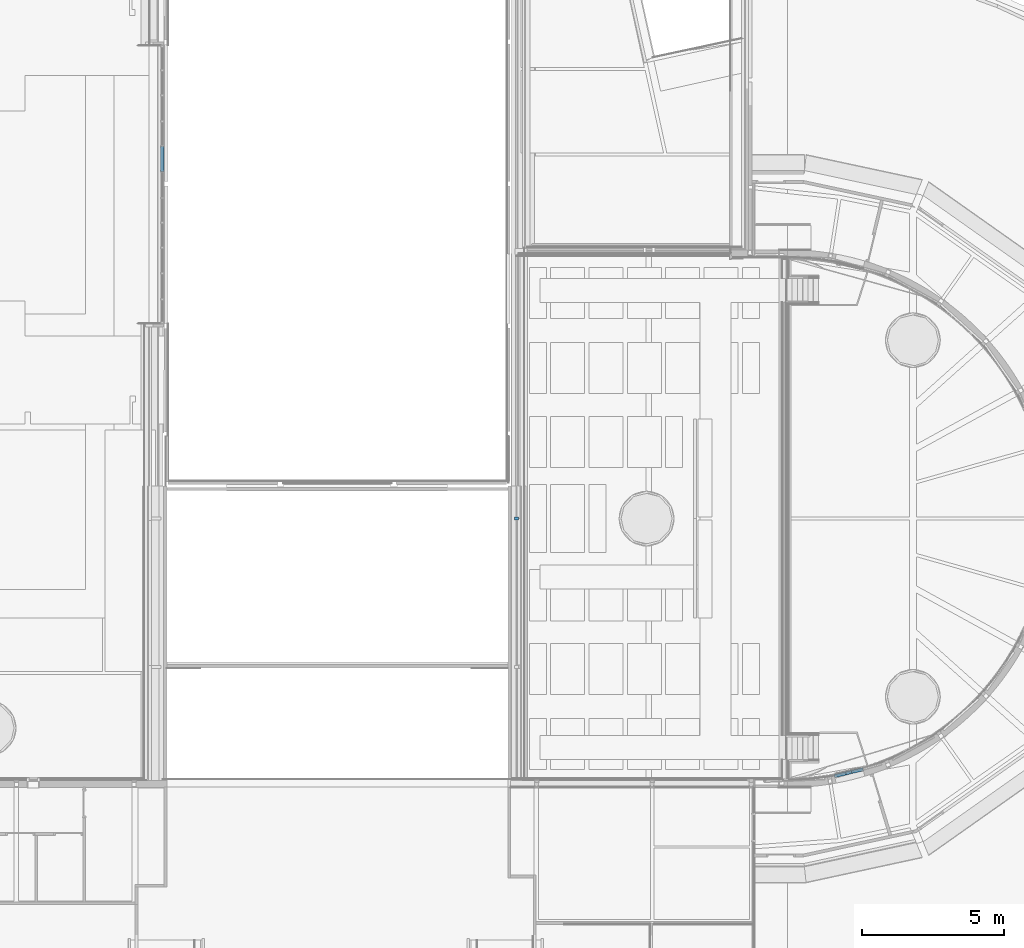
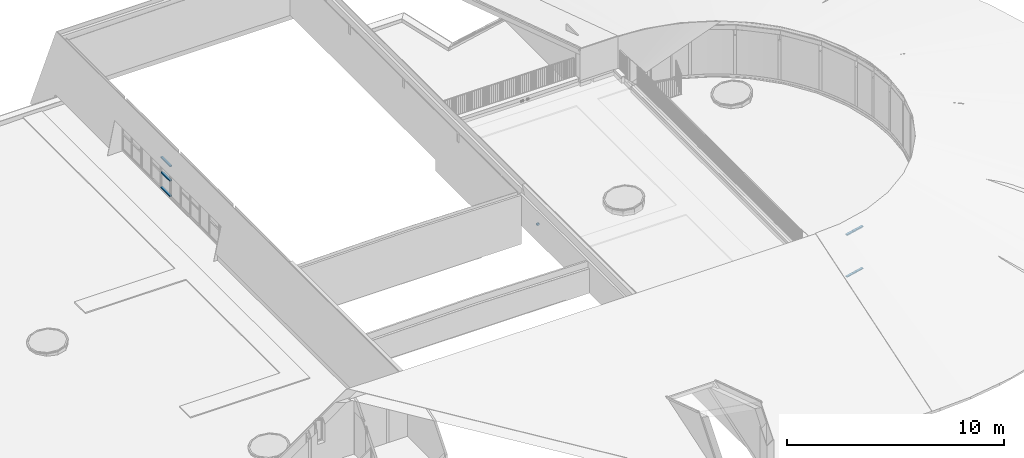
# One storey, part 7 of 66: 9 members, 1 beam, 2 elements without a shape of their own.
"""IFC2X3 building model written with IfcOpenShell, lengths in millimetres."""

from ifc_helpers import new_model, entity, si_unit, converted_unit, derived_unit, direction, frame, frame_2d, origin, origin_2d_with_axis, place, context, subcontext, project, spatial, rectangle, extrude, boolean, source, transform, mapped, material, type_object, type_shapes, element, aggregate, save


model = new_model("IFC2X3")

# Units and contexts
model_context = context("Model", 3, precision=0.01, world=origin(), true_north=direction((6.12303176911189e-17, 1.0)))
body_context = subcontext(model_context, "Body", "Model", "MODEL_VIEW")
ifc_project = project(units=[si_unit("LENGTHUNIT", "METRE", prefix="MILLI"), si_unit("AREAUNIT", "SQUARE_METRE"), si_unit("VOLUMEUNIT", "CUBIC_METRE"), converted_unit("PLANEANGLEUNIT", "DEGREE", entity("IfcRatioMeasure", 0.0174532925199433), si_unit("PLANEANGLEUNIT", "RADIAN"), dimensions=[0, 0, 0, 0, 0, 0, 0]), si_unit("MASSUNIT", "GRAM", prefix="KILO"), derived_unit("MASSDENSITYUNIT", [(si_unit("MASSUNIT", "GRAM", prefix="KILO"), 1), (si_unit("LENGTHUNIT", "METRE"), -3)]), derived_unit("MOMENTOFINERTIAUNIT", [(si_unit("LENGTHUNIT", "METRE"), 4)]), si_unit("TIMEUNIT", "SECOND"), si_unit("FREQUENCYUNIT", "HERTZ"), si_unit("THERMODYNAMICTEMPERATUREUNIT", "DEGREE_CELSIUS"), derived_unit("THERMALTRANSMITTANCEUNIT", [(si_unit("MASSUNIT", "GRAM", prefix="KILO"), 1), (si_unit("THERMODYNAMICTEMPERATUREUNIT", "KELVIN"), -1), (si_unit("TIMEUNIT", "SECOND"), -3)]), derived_unit("VOLUMETRICFLOWRATEUNIT", [(si_unit("LENGTHUNIT", "METRE"), 3), (si_unit("TIMEUNIT", "SECOND"), -1)]), si_unit("ELECTRICCURRENTUNIT", "AMPERE"), si_unit("ELECTRICVOLTAGEUNIT", "VOLT"), si_unit("POWERUNIT", "WATT"), si_unit("FORCEUNIT", "NEWTON", prefix="KILO"), si_unit("ILLUMINANCEUNIT", "LUX"), si_unit("LUMINOUSFLUXUNIT", "LUMEN"), si_unit("LUMINOUSINTENSITYUNIT", "CANDELA"), derived_unit("USERDEFINED", [(si_unit("MASSUNIT", "GRAM", prefix="KILO"), -1), (si_unit("LENGTHUNIT", "METRE"), -2), (si_unit("TIMEUNIT", "SECOND"), 3), (si_unit("LUMINOUSFLUXUNIT", "LUMEN"), 1)]), derived_unit("LINEARVELOCITYUNIT", [(si_unit("LENGTHUNIT", "METRE"), 1), (si_unit("TIMEUNIT", "SECOND"), -1)]), si_unit("PRESSUREUNIT", "PASCAL"), derived_unit("USERDEFINED", [(si_unit("LENGTHUNIT", "METRE"), -2), (si_unit("MASSUNIT", "GRAM", prefix="KILO"), 1), (si_unit("TIMEUNIT", "SECOND"), -2)]), derived_unit("LINEARFORCEUNIT", [(si_unit("MASSUNIT", "GRAM", prefix="KILO"), 1), (si_unit("LENGTHUNIT", "METRE"), 1), (si_unit("TIMEUNIT", "SECOND"), -2), (si_unit("LENGTHUNIT", "METRE"), -1)]), derived_unit("PLANARFORCEUNIT", [(si_unit("MASSUNIT", "GRAM", prefix="KILO"), 1), (si_unit("LENGTHUNIT", "METRE"), 1), (si_unit("TIMEUNIT", "SECOND"), -2), (si_unit("LENGTHUNIT", "METRE"), -2)])], contexts=[model_context])

# Site, building, storey
site_placement = place(None, origin())
site = spatial("IfcSite", under=ifc_project, at=site_placement, Name="Default", CompositionType="ELEMENT")
building_placement = place(site_placement, origin())
building = spatial("IfcBuilding", under=site, at=building_placement, Name="-", CompositionType="ELEMENT")
storey_placement = place(building_placement, frame((0.0, 0.0, 3070.0)))
storey = spatial("IfcBuildingStorey", under=building, at=storey_placement, Name="01 eerste verdieping", CompositionType="ELEMENT", Elevation=3070.00000000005)

# Curtain wall, members
curtain_wall_type = type_object("IfcCurtainWallType", Name="Curtain Wall:NLRS_31_WIN_UN_houten kozijn vrij indeelbaar_gen_aly", PredefinedType="NOTDEFINED")
curtain_wall_1_placement = place(storey_placement, frame((0.0, 0.0, -3070.0)))
curtain_wall_1 = element("IfcCurtainWall", 1, at=curtain_wall_1_placement, inside=storey, type_object=curtain_wall_type, Name="Curtain Wall:NLRS_31_WIN_UN_houten kozijn vrij indeelbaar_gen_aly", ObjectType="Curtain Wall:NLRS_31_WIN_UN_houten kozijn vrij indeelbaar_gen_aly")
ifc_material_1 = material(Name="NLRS_i3_hout_Loofhout (hardhout) RAL 9005")
member_type_1 = type_object("IfcMemberType", Name="Rectangular Mullion:67x114 zwart", PredefinedType="MULLION", material=ifc_material_1)
shared_shape_1 = source(origin(), body_context, "Body", "SweptSolid", [
    extrude(rectangle(XDim=114.0, YDim=67.0, at=origin_2d_with_axis()), frame((-33.5, 0.0, -880.0), z_axis=(0.0, 0.0, 1.0), x_axis=(0.0, -1.0, 0.0)), (0.0, 0.0, 1.0), 879.999999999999),
])
type_shapes(member_type_1, [shared_shape_1])
member_1_placement = place(storey_placement, frame((28618.0, 32729.055345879, 2105.30371120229), z_axis=(0.0, 1.0, 0.0), x_axis=(0.0, 0.0, 1.0)))
member_1 = element("IfcMember", 2, at=member_1_placement, type_object=member_type_1, material=ifc_material_1, Name="Rectangular Mullion:67x114 zwart", ObjectType="Rectangular Mullion:67x114 zwart", context=body_context, shape_type="MappedRepresentation", body=[
    mapped(shared_shape_1, transform((0.0, 0.0, 0.0), scale=1.0)),
])
member_type_2 = type_object("IfcMemberType", Name="Rectangular Mullion:67x114 zwart", PredefinedType="MULLION", material=ifc_material_1)
shared_shape_2 = source(origin(), body_context, "Body", "SweptSolid", [
    extrude(rectangle(XDim=114.0, YDim=67.0, at=origin_2d_with_axis()), frame((-33.5, 0.0, -880.0), z_axis=(0.0, 0.0, 1.0), x_axis=(0.0, -1.0, 0.0)), (0.0, 0.0, 1.0), 879.999999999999),
])
type_shapes(member_type_2, [shared_shape_2])
member_2_placement = place(storey_placement, frame((28618.0, 31849.055345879, 345.359003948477), z_axis=(0.0, -1.0, 0.0), x_axis=(0.0, 0.0, -1.0)))
member_2 = element("IfcMember", 3, at=member_2_placement, type_object=member_type_2, material=ifc_material_1, Name="Rectangular Mullion:67x114 zwart", ObjectType="Rectangular Mullion:67x114 zwart", context=body_context, shape_type="MappedRepresentation", body=[
    mapped(shared_shape_2, transform((0.0, 0.0, 0.0), scale=1.0)),
])
member_type_3 = type_object("IfcMemberType", Name="Rectangular Mullion:67x114 zwart", PredefinedType="MULLION", material=ifc_material_1)
shared_shape_3 = source(origin(), body_context, "Body", "SweptSolid", [
    extrude(rectangle(XDim=114.0, YDim=67.0, at=origin_2d_with_axis()), frame((0.0, 0.0, -813.0), z_axis=(0.0, 0.0, 1.0), x_axis=(0.0, -1.0, 0.0)), (0.0, 0.0, 1.0), 812.999999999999),
])
type_shapes(member_type_3, [shared_shape_3])
member_3_placement = place(storey_placement, frame((28618.0, 32695.555345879, 1235.33135757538), z_axis=(0.0, 1.0, 0.0), x_axis=(0.0, 0.0, 1.0)))
member_3 = element("IfcMember", 4, at=member_3_placement, type_object=member_type_3, material=ifc_material_1, Name="Rectangular Mullion:67x114 zwart", ObjectType="Rectangular Mullion:67x114 zwart", context=body_context, shape_type="MappedRepresentation", body=[
    mapped(shared_shape_3, transform((0.0, 0.0, 0.0), scale=1.0)),
])
aggregate(curtain_wall_1, [member_1, member_2, member_3])

# Beam
ifc_material_2 = material(Name="NLRS_h3_staal_verzinkt")
beam_type = type_object("IfcBeamType", Name="NLRS_28_SF_UN_kokerprofielen_gen_aly:K100/4", PredefinedType="NOTDEFINED")
beam_placement = place(storey_placement, frame((41164.1645167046, 19617.5681303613, 1919.0), z_axis=(0.0, 0.0, 1.0), x_axis=(-1.0, 0.0, 0.0)))
element("IfcBeam", 5, at=beam_placement, inside=storey, type_object=beam_type, material=ifc_material_2, Name="NLRS_28_SF_UN_kokerprofielen_gen_aly:K100/4", ObjectType="NLRS_28_SF_UN_kokerprofielen_gen_aly:K100/4", context=body_context, shape_type="CSG", body=[
    boolean("DIFFERENCE", extrude(rectangle(XDim=100.0, YDim=99.9999999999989, at=frame_2d((-5.43565192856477e-13, -2.16715534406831e-12), x_axis=(1.0, 0.0))), frame((0.0, 0.0, -50.0), z_axis=(1.0, 0.0, 0.0), x_axis=(0.0, 0.0, -1.0)), (0.0, 0.0, 1.0), 133.079701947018), extrude(rectangle(XDim=91.9999999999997, YDim=92.0000000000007, at=frame_2d((2.16715534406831e-12, 5.40012479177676e-13), x_axis=(0.0, 1.0))), frame((0.0, 0.0, -50.0), z_axis=(1.0, 0.0, 0.0), x_axis=(0.0, -1.0, 0.0)), (0.0, 0.0, 1.0), 133.079701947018)),
])

# Curtain wall, members
curtain_wall_2_placement = place(storey_placement, frame((0.0, 0.0, -3070.0)))
curtain_wall_2 = element("IfcCurtainWall", 6, at=curtain_wall_2_placement, inside=storey, type_object=curtain_wall_type, Name="Curtain Wall:NLRS_31_WIN_UN_houten kozijn vrij indeelbaar_gen_aly", ObjectType="Curtain Wall:NLRS_31_WIN_UN_houten kozijn vrij indeelbaar_gen_aly")
ifc_material_3 = material(Name="AL Kozijnhout bruin")
member_type_4 = type_object("IfcMemberType", Name="Rectangular Mullion:67x114 Bruin", PredefinedType="MULLION", material=ifc_material_3)
shared_shape_4 = source(origin(), body_context, "Body", "SweptSolid", [
    extrude(rectangle(XDim=114.0, YDim=67.0, at=origin_2d_with_axis()), frame((-33.5, 0.0, -413.937262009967), z_axis=(0.0, 0.0, 1.0), x_axis=(0.0, -1.0, 0.0)), (0.0, 0.0, 1.0), 413.937262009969),
])
type_shapes(member_type_4, [shared_shape_4])
member_4_placement = place(storey_placement, frame((52697.1860709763, 10646.0340125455, 2872.0), z_axis=(0.972293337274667, 0.23376412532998, 0.0), x_axis=(0.0, 0.0, 1.0)))
member_4 = element("IfcMember", 7, at=member_4_placement, type_object=member_type_4, material=ifc_material_3, Name="Rectangular Mullion:67x114 Bruin", ObjectType="Rectangular Mullion:67x114 Bruin", context=body_context, shape_type="MappedRepresentation", body=[
    mapped(shared_shape_4, transform((0.0, 0.0, 0.0), scale=1.0)),
])
member_type_5 = type_object("IfcMemberType", Name="Rectangular Mullion:67x114 Bruin", PredefinedType="MULLION", material=ifc_material_3)
shared_shape_5 = source(origin(), body_context, "Body", "SweptSolid", [
    extrude(rectangle(XDim=114.0, YDim=67.0, at=origin_2d_with_axis()), frame((-33.5, 0.0, -413.937262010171), z_axis=(0.0, 0.0, 1.0), x_axis=(0.0, -1.0, 0.0)), (0.0, 0.0, 1.0), 413.937262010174),
])
type_shapes(member_type_5, [shared_shape_5])
member_5_placement = place(storey_placement, frame((53300.0689398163, 10790.9824361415, 2872.0), z_axis=(0.972293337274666, 0.233764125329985, 0.0), x_axis=(0.0, 0.0, 1.0)))
member_5 = element("IfcMember", 8, at=member_5_placement, type_object=member_type_5, material=ifc_material_3, Name="Rectangular Mullion:67x114 Bruin", ObjectType="Rectangular Mullion:67x114 Bruin", context=body_context, shape_type="MappedRepresentation", body=[
    mapped(shared_shape_5, transform((0.0, 0.0, 0.0), scale=1.0)),
])
member_type_6 = type_object("IfcMemberType", Name="Rectangular Mullion:67x114 Bruin", PredefinedType="MULLION", material=ifc_material_3)
shared_shape_6 = source(origin(), body_context, "Body", "SweptSolid", [
    extrude(rectangle(XDim=114.0, YDim=67.0, at=origin_2d_with_axis()), frame((-33.5, 0.0, -206.125475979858), z_axis=(0.0, 0.0, 1.0), x_axis=(0.0, -1.0, 0.0)), (0.0, 0.0, 1.0), 206.125475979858),
])
type_shapes(member_type_6, [shared_shape_6])
member_6_placement = place(storey_placement, frame((52897.600497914, 10694.2187541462, 2872.0), z_axis=(0.972293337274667, 0.23376412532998, 0.0), x_axis=(0.0, 0.0, 1.0)))
member_6 = element("IfcMember", 9, at=member_6_placement, type_object=member_type_6, material=ifc_material_3, Name="Rectangular Mullion:67x114 Bruin", ObjectType="Rectangular Mullion:67x114 Bruin", context=body_context, shape_type="MappedRepresentation", body=[
    mapped(shared_shape_6, transform((0.0, 0.0, 0.0), scale=1.0)),
])
ifc_material_4 = material(Name="NLRS_n6_kunststof_DTS-basis black")
member_type_7 = type_object("IfcMemberType", Name="Rectangular Mullion:52x114 DTS", PredefinedType="MULLION", material=ifc_material_4)
shared_shape_7 = source(origin(), body_context, "Body", "SweptSolid", [
    extrude(rectangle(XDim=114.0, YDim=52.0, at=origin_2d_with_axis()), frame((-26.0, 0.0, -413.93726200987), z_axis=(0.0, 0.0, 1.0), x_axis=(0.0, -1.0, 0.0)), (0.0, 0.0, 1.0), 413.937262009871),
])
type_shapes(member_type_7, [shared_shape_7])
member_7_placement = place(storey_placement, frame((52294.7176290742, 10549.2703305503, 450.0), z_axis=(-0.972293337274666, -0.233764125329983, 0.0), x_axis=(0.0, 0.0, -1.0)))
member_7 = element("IfcMember", 10, at=member_7_placement, type_object=member_type_7, material=ifc_material_4, Name="Rectangular Mullion:52x114 DTS", ObjectType="Rectangular Mullion:52x114 DTS", context=body_context, shape_type="MappedRepresentation", body=[
    mapped(shared_shape_7, transform((0.0, 0.0, 0.0), scale=1.0)),
])
member_type_8 = type_object("IfcMemberType", Name="Rectangular Mullion:52x114 DTS", PredefinedType="MULLION", material=ifc_material_4)
shared_shape_8 = source(origin(), body_context, "Body", "SweptSolid", [
    extrude(rectangle(XDim=114.0, YDim=52.0, at=frame_2d((-1.06581410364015e-14, 0.0), x_axis=(1.0, 0.0))), frame((-26.0, 0.0, -206.125475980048), z_axis=(0.0, 0.0, 1.0), x_axis=(0.0, -1.0, 0.0)), (0.0, 0.0, 1.0), 206.125475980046),
])
type_shapes(member_type_8, [shared_shape_8])
member_8_placement = place(storey_placement, frame((52697.1860709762, 10646.0340125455, 450.0), z_axis=(-0.972293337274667, -0.233764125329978, 0.0), x_axis=(0.0, 0.0, -1.0)))
member_8 = element("IfcMember", 11, at=member_8_placement, type_object=member_type_8, material=ifc_material_4, Name="Rectangular Mullion:52x114 DTS", ObjectType="Rectangular Mullion:52x114 DTS", context=body_context, shape_type="MappedRepresentation", body=[
    mapped(shared_shape_8, transform((0.0, 0.0, 0.0), scale=1.0)),
])
member_type_9 = type_object("IfcMemberType", Name="Rectangular Mullion:52x114 DTS", PredefinedType="MULLION", material=ifc_material_4)
shared_shape_9 = source(origin(), body_context, "Body", "SweptSolid", [
    extrude(rectangle(XDim=114.0, YDim=52.0, at=origin_2d_with_axis()), frame((-26.0, 0.0, -413.937262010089), z_axis=(0.0, 0.0, 1.0), x_axis=(0.0, -1.0, 0.0)), (0.0, 0.0, 1.0), 413.937262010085),
])
type_shapes(member_type_9, [shared_shape_9])
member_9_placement = place(storey_placement, frame((52897.6004979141, 10694.2187541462, 450.0), z_axis=(-0.972293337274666, -0.233764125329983, 0.0), x_axis=(0.0, 0.0, -1.0)))
member_9 = element("IfcMember", 12, at=member_9_placement, type_object=member_type_9, material=ifc_material_4, Name="Rectangular Mullion:52x114 DTS", ObjectType="Rectangular Mullion:52x114 DTS", context=body_context, shape_type="MappedRepresentation", body=[
    mapped(shared_shape_9, transform((0.0, 0.0, 0.0), scale=1.0)),
])
aggregate(curtain_wall_2, [member_4, member_5, member_6, member_7, member_8, member_9])

save(model, "model.ifc")
